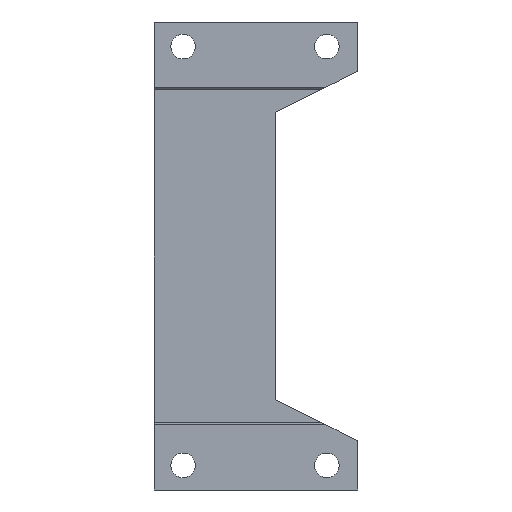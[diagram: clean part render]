
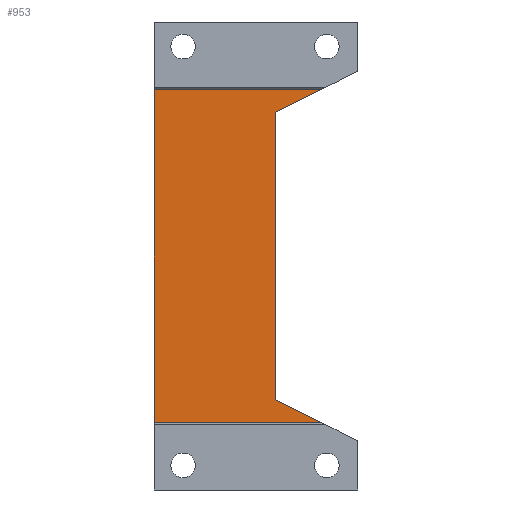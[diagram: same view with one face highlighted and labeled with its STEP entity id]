
A CAD part, left-side view. The second image highlights one B-rep face of the part: STEP entity #953.
In plain terms, the highlighted planar face has unit normal (-1, 0, 0).
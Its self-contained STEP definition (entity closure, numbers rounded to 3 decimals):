
#14 = EDGE_LOOP ( 'NONE', ( #661, #1193, #19, #451, #45, #579 ) ) ;
#19 = ORIENTED_EDGE ( 'NONE', *, *, #888, .T. ) ;
#45 = ORIENTED_EDGE ( 'NONE', *, *, #1102, .T. ) ;
#50 = DIRECTION ( 'NONE',  ( 0., 0.894, 0.447 ) ) ;
#52 = CARTESIAN_POINT ( 'NONE',  ( 1., -15.75, -40.5 ) ) ;
#53 = LINE ( 'NONE', #52, #1075 ) ;
#131 = DIRECTION ( 'NONE',  ( 0., 0., 1. ) ) ;
#132 = CARTESIAN_POINT ( 'NONE',  ( 1., -4.75, -35. ) ) ;
#133 = LINE ( 'NONE', #132, #1227 ) ;
#190 = DIRECTION ( 'NONE',  ( 0., 1., 0. ) ) ;
#191 = CARTESIAN_POINT ( 'NONE',  ( 1., -15.75, 40.5 ) ) ;
#192 = LINE ( 'NONE', #191, #1439 ) ;
#219 = DIRECTION ( 'NONE',  ( 0., -0.894, 0.447 ) ) ;
#220 = CARTESIAN_POINT ( 'NONE',  ( 1., -4.75, 35. ) ) ;
#221 = LINE ( 'NONE', #220, #1523 ) ;
#251 = DIRECTION ( 'NONE',  ( 0., 0., -1. ) ) ;
#253 = DIRECTION ( 'NONE',  ( 1., 0., 0. ) ) ;
#254 = CARTESIAN_POINT ( 'NONE',  ( 1., 0., 0. ) ) ;
#258 = PLANE ( 'NONE',  #785 ) ;
#277 = DIRECTION ( 'NONE',  ( 0., 0., -1. ) ) ;
#278 = CARTESIAN_POINT ( 'NONE',  ( 1., 24.75, -40.5 ) ) ;
#279 = LINE ( 'NONE', #278, #751 ) ;
#340 = DIRECTION ( 'NONE',  ( 0., -1., 0. ) ) ;
#341 = CARTESIAN_POINT ( 'NONE',  ( 1., 24.75, -40.5 ) ) ;
#342 = LINE ( 'NONE', #341, #534 ) ;
#451 = ORIENTED_EDGE ( 'NONE', *, *, #1157, .T. ) ;
#534 = VECTOR ( 'NONE', #340, 1000. ) ;
#579 = ORIENTED_EDGE ( 'NONE', *, *, #992, .T. ) ;
#661 = ORIENTED_EDGE ( 'NONE', *, *, #1026, .T. ) ;
#751 = VECTOR ( 'NONE', #277, 1000. ) ;
#785 = AXIS2_PLACEMENT_3D ( 'NONE', #254, #253, #251 ) ;
#793 = CARTESIAN_POINT ( 'NONE',  ( 1., -15.75, -40.5 ) ) ;
#796 = CARTESIAN_POINT ( 'NONE',  ( 1., -4.75, -35. ) ) ;
#816 = CARTESIAN_POINT ( 'NONE',  ( 1., -4.75, 35. ) ) ;
#826 = CARTESIAN_POINT ( 'NONE',  ( 1., -15.75, 40.5 ) ) ;
#869 = FACE_OUTER_BOUND ( 'NONE', #14, .T. ) ;
#888 = EDGE_CURVE ( 'NONE', #1561, #1652, #342, .T. ) ;
#931 = EDGE_CURVE ( 'NONE', #1555, #1561, #279, .T. ) ;
#953 = ADVANCED_FACE ( 'NONE', ( #869 ), #258, .F. ) ;
#977 = CARTESIAN_POINT ( 'NONE',  ( 1., 24.75, -40.5 ) ) ;
#978 = CARTESIAN_POINT ( 'NONE',  ( 1., 24.75, 40.5 ) ) ;
#992 = EDGE_CURVE ( 'NONE', #1634, #1627, #221, .T. ) ;
#1026 = EDGE_CURVE ( 'NONE', #1627, #1555, #192, .T. ) ;
#1075 = VECTOR ( 'NONE', #50, 1000. ) ;
#1102 = EDGE_CURVE ( 'NONE', #1643, #1634, #133, .T. ) ;
#1157 = EDGE_CURVE ( 'NONE', #1652, #1643, #53, .T. ) ;
#1193 = ORIENTED_EDGE ( 'NONE', *, *, #931, .T. ) ;
#1227 = VECTOR ( 'NONE', #131, 1000. ) ;
#1439 = VECTOR ( 'NONE', #190, 1000. ) ;
#1523 = VECTOR ( 'NONE', #219, 1000. ) ;
#1555 = VERTEX_POINT ( 'NONE', #978 ) ;
#1561 = VERTEX_POINT ( 'NONE', #977 ) ;
#1627 = VERTEX_POINT ( 'NONE', #826 ) ;
#1634 = VERTEX_POINT ( 'NONE', #816 ) ;
#1643 = VERTEX_POINT ( 'NONE', #796 ) ;
#1652 = VERTEX_POINT ( 'NONE', #793 ) ;
